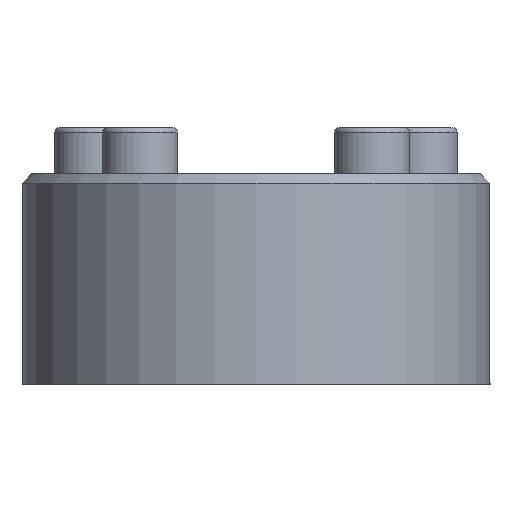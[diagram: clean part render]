
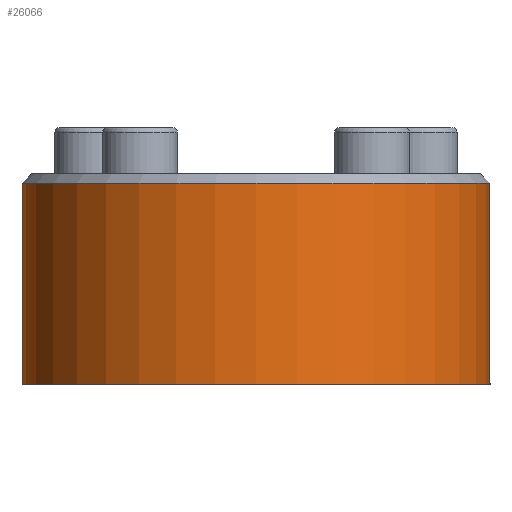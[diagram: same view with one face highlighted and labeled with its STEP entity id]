
A CAD part, front view. The second image highlights one B-rep face of the part: STEP entity #26066.
In plain terms, the highlighted cylindrical face has radius 50 mm (diameter 100 mm), a partial arc.
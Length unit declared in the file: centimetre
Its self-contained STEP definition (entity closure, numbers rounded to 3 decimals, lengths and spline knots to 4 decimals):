
#1612=CYLINDRICAL_SURFACE('',#27509,5.);
#3153=FACE_OUTER_BOUND('',#4676,.T.);
#4676=EDGE_LOOP('',(#19252,#19253,#19254,#19255));
#5936=LINE('',#33055,#8634);
#6788=LINE('',#37053,#9486);
#8634=VECTOR('',#28333,4.3);
#9486=VECTOR('',#29585,4.3);
#11382=CIRCLE('',#27506,5.);
#11383=CIRCLE('',#27510,5.);
#11396=VERTEX_POINT('',#33053);
#11397=VERTEX_POINT('',#33054);
#12650=VERTEX_POINT('',#37044);
#12651=VERTEX_POINT('',#37052);
#13884=EDGE_CURVE('',#11396,#11397,#5936,.T.);
#15228=EDGE_CURVE('',#11397,#12650,#11382,.T.);
#15231=EDGE_CURVE('',#12651,#12650,#6788,.T.);
#15232=EDGE_CURVE('',#12651,#11396,#11383,.T.);
#19252=ORIENTED_EDGE('',*,*,#15231,.T.);
#19253=ORIENTED_EDGE('',*,*,#15228,.F.);
#19254=ORIENTED_EDGE('',*,*,#13884,.F.);
#19255=ORIENTED_EDGE('',*,*,#15232,.F.);
#26066=ADVANCED_FACE('',(#3153),#1612,.T.);
#27506=AXIS2_PLACEMENT_3D('',#37046,#29575,#29576);
#27509=AXIS2_PLACEMENT_3D('',#37051,#29583,#29584);
#27510=AXIS2_PLACEMENT_3D('',#37054,#29586,#29587);
#28333=DIRECTION('',(0.,0.,1.));
#29575=DIRECTION('center_axis',(0.,0.,
1.));
#29576=DIRECTION('ref_axis',(-1.,0.,0.));
#29583=DIRECTION('center_axis',(0.,0.,
-1.));
#29584=DIRECTION('ref_axis',(-1.,0.,0.));
#29585=DIRECTION('',(0.,0.,1.));
#29586=DIRECTION('center_axis',(0.,0.,
-1.));
#29587=DIRECTION('ref_axis',(1.,0.,0.));
#33053=CARTESIAN_POINT('',(-5.,-16.5,-2.75));
#33054=CARTESIAN_POINT('',(-5.,-16.5,1.55));
#33055=CARTESIAN_POINT('',(-5.,-16.5,-2.75));
#37044=CARTESIAN_POINT('',(5.,-16.5,1.55));
#37046=CARTESIAN_POINT('Origin',(0.,-16.5,
1.55));
#37051=CARTESIAN_POINT('Origin',(0.,-16.5,
1.75));
#37052=CARTESIAN_POINT('',(5.,-16.5,-2.75));
#37053=CARTESIAN_POINT('',(5.,-16.5,-2.75));
#37054=CARTESIAN_POINT('Origin',(0.,-16.5,
-2.75));
